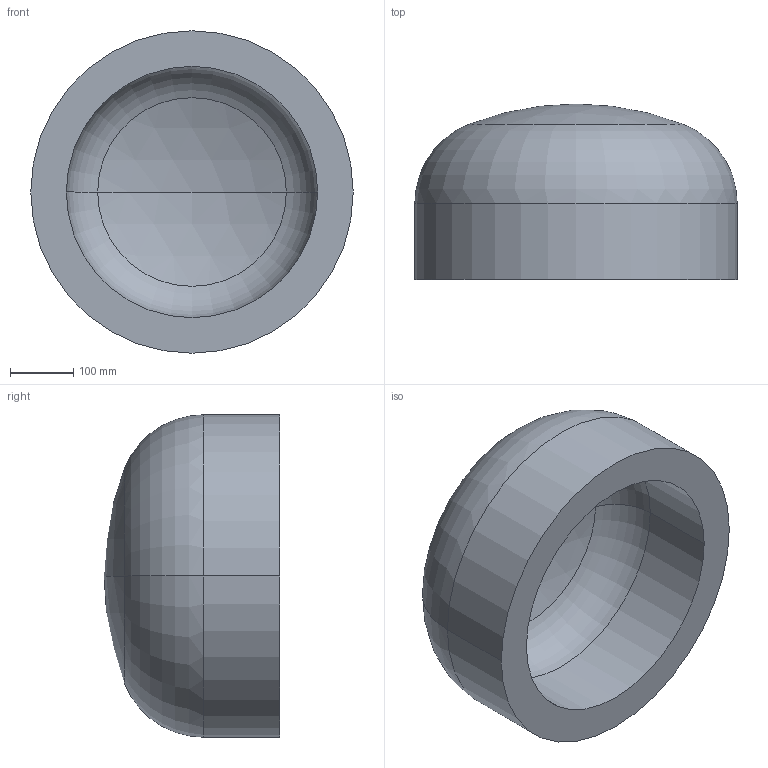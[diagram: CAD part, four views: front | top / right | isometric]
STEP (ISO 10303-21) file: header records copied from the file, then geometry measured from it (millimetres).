
FILE_DESCRIPTION (( 'STEP AP203' ), '1' );
FILE_NAME ('DIN 28013 Korbbogenform_-_Boden DIN 28013 - 508 x 120 - I - s=56.step', '2016-07-01T07:55:58', ( '' ), ( '' ), 'SwSTEP 2.0', 'SolidWorks 2013', '' );
FILE_SCHEMA (( 'CONFIG_CONTROL_DESIGN' ));
Length unit declared in the file: millimetre
Products named in the file (1): DIN 28013 Korbbogenform_-_Boden DIN 28013 - 508 x 120 - I - s=56
Bounding box: 508 x 276.74 x 508 mm (x, y, z)
Volume: 23262373 mm3; surface area: 916887 mm2
Topology: 1 solids, 1 shells, 13 faces, 24 edges, 14 vertices
Faces by surface type: torus 4, cylinder 4, sphere 4, plane 1
Entity records: 407 total; most frequent: DIRECTION 72, CARTESIAN_POINT 52, ORIENTED_EDGE 48, AXIS2_PLACEMENT_3D 34, EDGE_CURVE 24, CIRCLE 20, EDGE_LOOP 14, VERTEX_POINT 14
